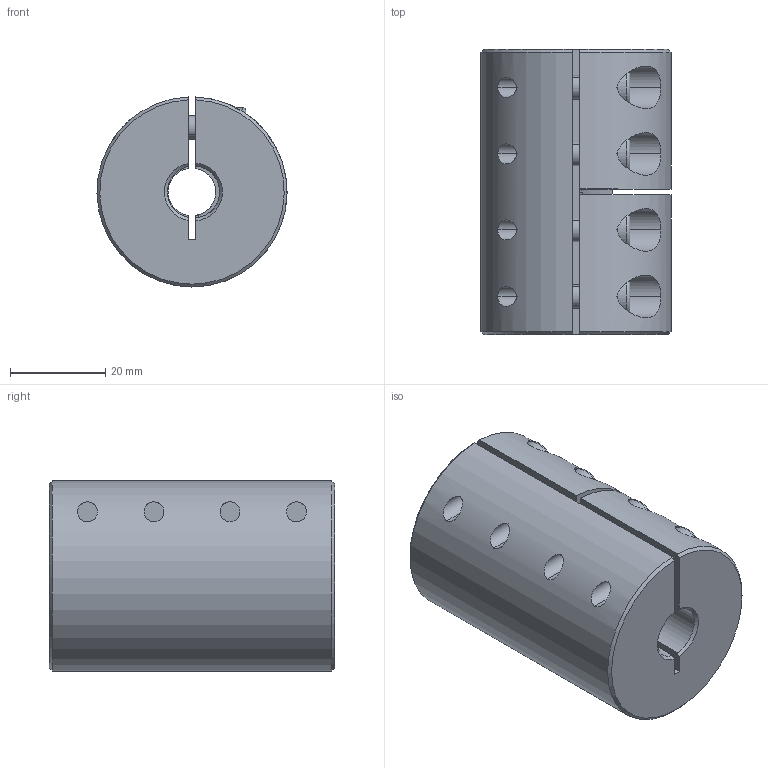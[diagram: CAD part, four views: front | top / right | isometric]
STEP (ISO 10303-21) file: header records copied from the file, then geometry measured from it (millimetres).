
FILE_DESCRIPTION (( 'STEP AP214' ), '1' );
FILE_NAME ('LL-B-D40L60-10-11½¨Ä£.STEP', '2022-07-22T00:52:11', ( '' ), ( '' ), 'SwSTEP 2.0', 'SolidWorks 2022', '' );
FILE_SCHEMA (( 'AUTOMOTIVE_DESIGN' ));
Length unit declared in the file: millimetre
Products named in the file (1): LL-B-D40L60-10-11膘耀
Bounding box: 40 x 60 x 39.99 mm (x, y, z)
Volume: 66345.3 mm3; surface area: 17478.3 mm2
Topology: 1 solids, 1 shells, 182 faces, 463 edges, 291 vertices
Faces by surface type: plane 88, cylinder 71, cone 15, torus 8
Entity records: 6015 total; most frequent: CARTESIAN_POINT 1525, DIRECTION 971, ORIENTED_EDGE 910, EDGE_CURVE 455, AXIS2_PLACEMENT_3D 377, VERTEX_POINT 291, LINE 217, VECTOR 217
